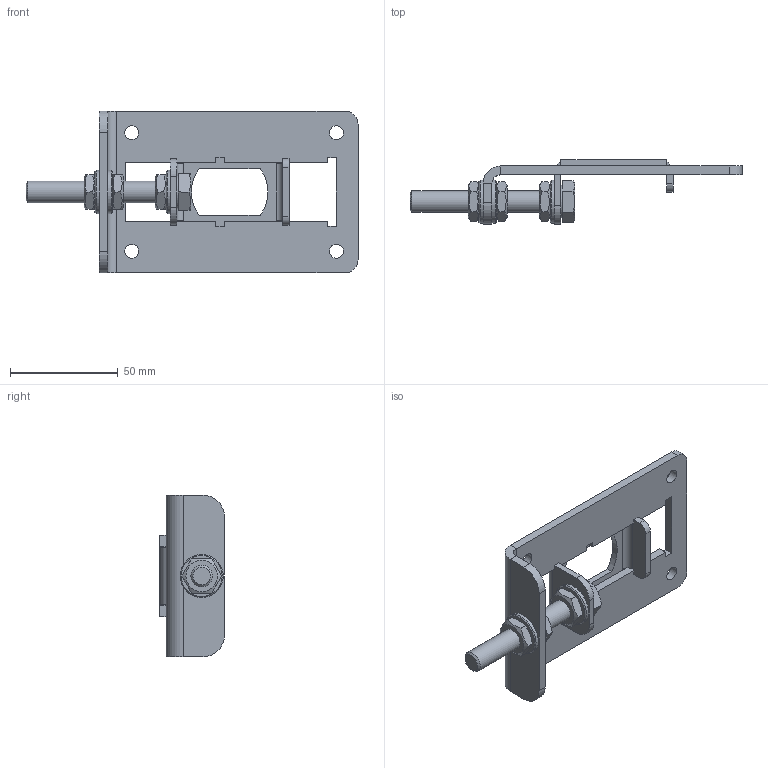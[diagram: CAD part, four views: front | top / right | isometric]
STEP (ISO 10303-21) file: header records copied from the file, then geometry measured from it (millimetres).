
FILE_DESCRIPTION(/* description */ (''),/* implementation_level */ '2;1');
FILE_NAME(/* name */ 'C:\Users\Gunnar Hansen\Documents\Inventor tegninger\00 Standart komponenter\Tromlemotorer\Beslag\Strammer SDL113 BL35-21\SDL 113 BL35-21.stp',/* time_stamp */ '2015-12-02T15:30:49+01:00',/* author */ ('Gunnar Hansen'),/* organization */ (''),/* preprocessor_version */ 'ST-DEVELOPER v15.6',/* originating_system */ 'Autodesk Inventor 2015',/* authorisation */ '');
FILE_SCHEMA (('AUTOMOTIVE_DESIGN { 1 0 10303 214 3 1 1 }'));
Length unit declared in the file: millimetre
Products named in the file (6): Strammeplade SDL-SDS Ø113; Glideplade SDl 113 BL35-21; DIN 125-2 B  10,5; DIN 933 - replaced by DIN EN 24017 M10  x 70; ISO 4035 M10; SDL 113  BL35-21
Bounding box: 154 x 30 x 75 mm (x, y, z)
Volume: 47538 mm3; surface area: 30990.4 mm2
Topology: 9 solids, 9 shells, 164 faces, 395 edges, 251 vertices
Faces by surface type: plane 106, cylinder 35, cone 23
Full cylindrical faces by diameter (mm): 6.5 x4, 8.376 x3, 9.188 x1, 10 x1, 10.5 x3, 11 x1, 15.4 x1, 20 x3
Entity records: 3845 total; most frequent: CARTESIAN_POINT 693, DIRECTION 632, ORIENTED_EDGE 600, EDGE_CURVE 300, AXIS2_PLACEMENT_3D 213, LINE 206, VECTOR 206, VERTEX_POINT 202
